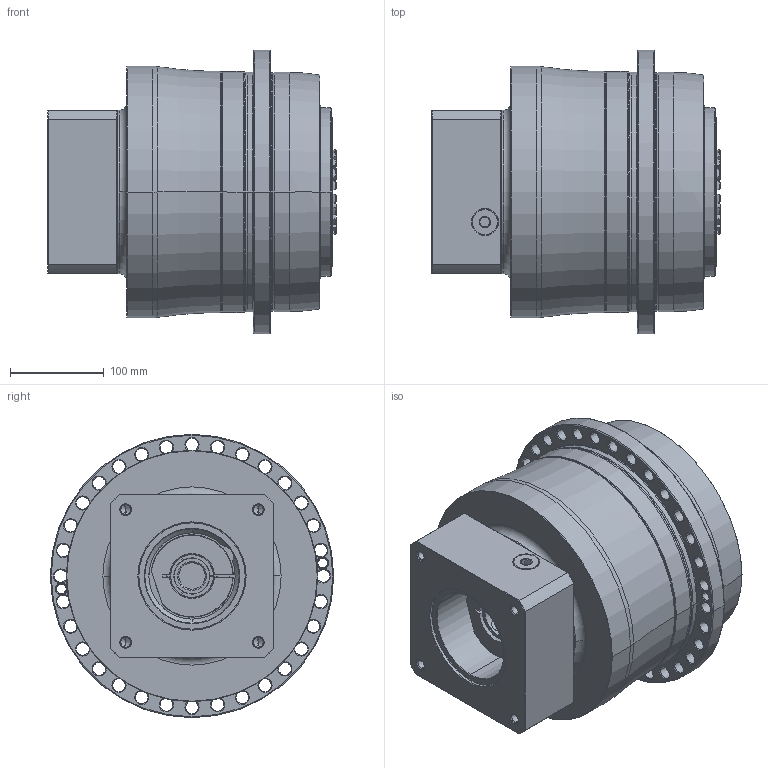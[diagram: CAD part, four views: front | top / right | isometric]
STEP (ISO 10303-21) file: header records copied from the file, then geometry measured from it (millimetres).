
FILE_DESCRIPTION((''),'2;1');
FILE_NAME('APC255_2ST_38-P0409910201_ASM','2018-06-29T',('d01226'),(''),'PRO/ENGINEER BY PARAMETRIC TECHNOLOGY CORPORATION, 2008410','PRO/ENGINEER BY PARAMETRIC TECHNOLOGY CORPORATION, 2008410','');
FILE_SCHEMA(('CONFIG_CONTROL_DESIGN'));
Length unit declared in the file: millimetre
Products named in the file (9): P0278701003; P0359770103; P1317710201; P0503900012; P0912652001; P1211700001; P0409910201; 21711422019; APC255_2ST_38-P0409910201_ASM
Assembly tree (8 placements, depth 2):
  APC255_2ST_38-P0409910201_ASM
    P0278701003
    P0359770103
    P1317710201
    P0503900012
    P0912652001
    P1211700001
    P0409910201
    21711422019
Bounding box: 307.1 x 302 x 302 mm (x, y, z)
Volume: 12230660 mm3; surface area: 827695.4 mm2
Topology: 9 solids, 21 shells, 763 faces, 1876 edges, 1145 vertices
Faces by surface type: cone 272, cylinder 236, plane 130, torus 111, bspline 14
Entity records: 28056 total; most frequent: CARTESIAN_POINT 9539, DIRECTION 4143, ORIENTED_EDGE 3666, EDGE_CURVE 1858, AXIS2_PLACEMENT_3D 1801, VERTEX_POINT 1145, CIRCLE 1023, EDGE_LOOP 879
